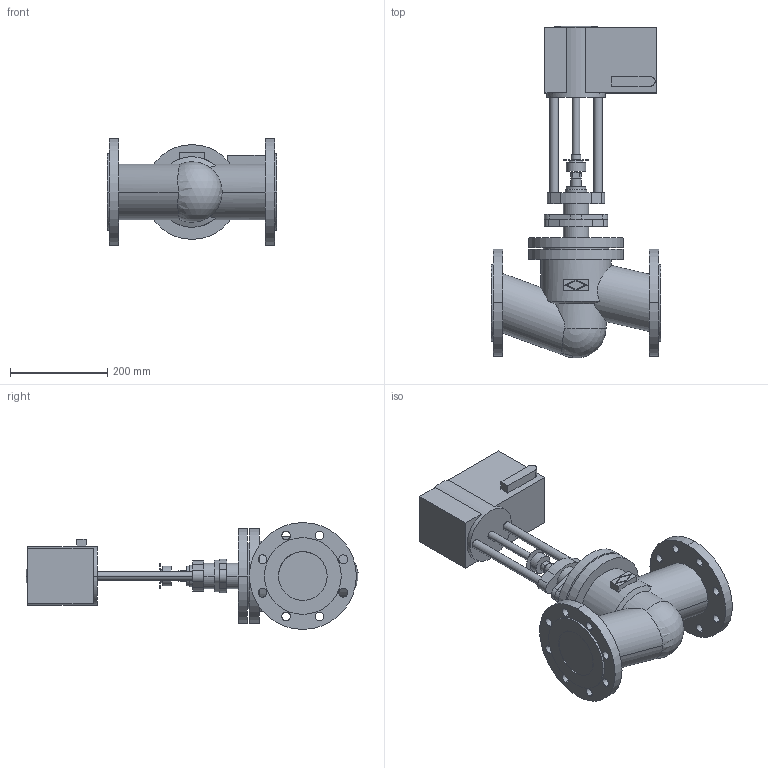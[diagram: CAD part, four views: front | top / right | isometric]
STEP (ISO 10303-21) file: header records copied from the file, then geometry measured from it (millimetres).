
FILE_DESCRIPTION(('Creo Elements/Direct Modeling STEP Export'),'2;1');
FILE_NAME('c000005075.stp','2013-06-04T 9:39:44',(''),(''),'Creo Elements/Direct Modeling STEP processor for AP203 (Solid Model)','Creo Elements/Direct Modeling 17.0D 15-Jul-2011 (C) Parametric Technology GmbH','');
FILE_SCHEMA(('CONFIG_CONTROL_DESIGN'));
Length unit declared in the file: millimetre
Products named in the file (5): AnbauteileVentilM14; DN100; FR1.2
Assembly tree (2 placements, depth 2):
  AnbauteileVentilM14
    AnbauteileVentilM14
  DN100
  FR1.2
    FR1.2
Bounding box: 350 x 683.55 x 220 mm (x, y, z)
Volume: 11802324.8 mm3; surface area: 667126.8 mm2
Topology: 3 solids, 3 shells, 226 faces, 543 edges, 347 vertices
Faces by surface type: cylinder 110, plane 75, cone 22, torus 16, sphere 3
Entity records: 7004 total; most frequent: CARTESIAN_POINT 1460, ORIENTED_EDGE 1078, DIRECTION 992, EDGE_CURVE 539, AXIS2_PLACEMENT_3D 382, VERTEX_POINT 347, EDGE_LOOP 288, VECTOR 228
